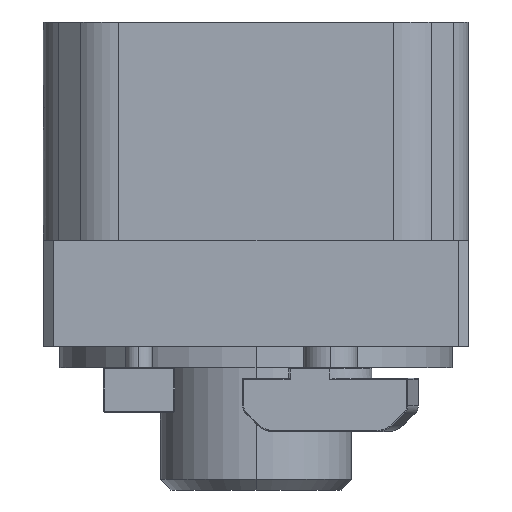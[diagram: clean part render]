
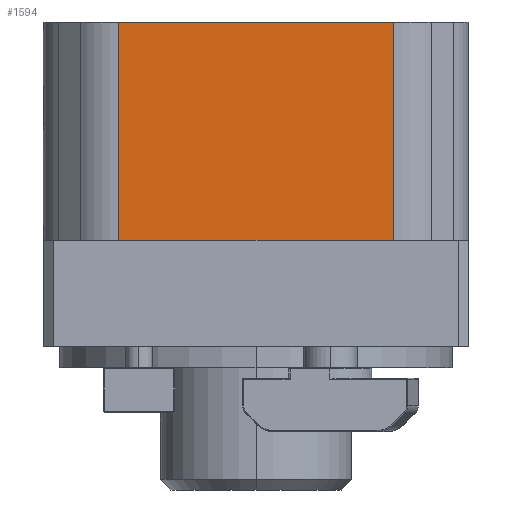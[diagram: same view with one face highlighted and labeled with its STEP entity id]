
A CAD part, left-side view. The second image highlights one B-rep face of the part: STEP entity #1594.
In plain terms, the highlighted planar face has unit normal (-1, 0, 0).
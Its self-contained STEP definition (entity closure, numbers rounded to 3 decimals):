
#153=DIRECTION('',(0.,-1.,0.));
#154=VECTOR('',#153,25.858);
#155=CARTESIAN_POINT('',(-21.,12.929,30.5));
#156=LINE('',#155,#154);
#340=DIRECTION('',(0.,0.,1.));
#341=VECTOR('',#340,20.5);
#342=CARTESIAN_POINT('',(-21.,-12.929,10.));
#343=LINE('',#342,#341);
#344=DIRECTION('',(0.,0.,-1.));
#345=VECTOR('',#344,20.5);
#346=CARTESIAN_POINT('',(-21.,12.929,30.5));
#347=LINE('',#346,#345);
#414=DIRECTION('',(0.,1.,0.));
#415=VECTOR('',#414,25.858);
#416=CARTESIAN_POINT('',(-21.,-12.929,10.));
#417=LINE('',#416,#415);
#1031=CARTESIAN_POINT('',(-21.,-12.929,30.5));
#1033=VERTEX_POINT('',#1031);
#1037=CARTESIAN_POINT('',(-21.,-12.929,10.));
#1038=VERTEX_POINT('',#1037);
#1049=CARTESIAN_POINT('',(-21.,12.929,30.5));
#1050=VERTEX_POINT('',#1049);
#1051=CARTESIAN_POINT('',(-21.,12.929,10.));
#1052=VERTEX_POINT('',#1051);
#1581=CARTESIAN_POINT('',(-21.,20.,10.));
#1582=DIRECTION('',(-1.,0.,0.));
#1583=DIRECTION('',(0.,-1.,0.));
#1584=AXIS2_PLACEMENT_3D('',#1581,#1582,#1583);
#1585=PLANE('',#1584);
#1587=ORIENTED_EDGE('',*,*,#1586,.F.);
#1589=ORIENTED_EDGE('',*,*,#1588,.T.);
#1590=ORIENTED_EDGE('',*,*,#1574,.F.);
#1591=ORIENTED_EDGE('',*,*,#1388,.T.);
#1592=EDGE_LOOP('',(#1587,#1589,#1590,#1591));
#1593=FACE_OUTER_BOUND('',#1592,.F.);
#1388=EDGE_CURVE('',#1050,#1033,#156,.T.);
#1574=EDGE_CURVE('',#1050,#1052,#347,.T.);
#1586=EDGE_CURVE('',#1038,#1033,#343,.T.);
#1588=EDGE_CURVE('',#1038,#1052,#417,.T.);
#1594=ADVANCED_FACE('',(#1593),#1585,.T.);
